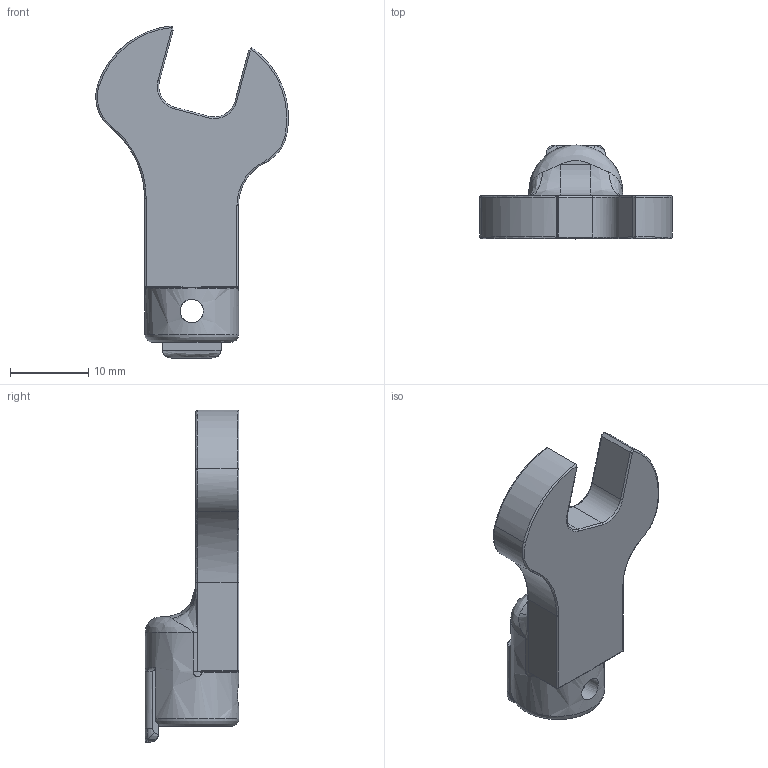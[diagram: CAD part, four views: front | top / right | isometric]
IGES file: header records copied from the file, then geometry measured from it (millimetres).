
Global section: file name: SH8DX10; native system: Autodesk Inventor 2016; preprocessor: unknown; author: Q600; date: 20151029.194313; units: millimetre
Bounding box: 24.6 x 12 x 42.43 mm (x, y, z)
Volume: 3160.4 mm3; surface area: 2212.2 mm2
Topology: 1 solids, 1 shells, 113 faces, 284 edges, 166 vertices
Faces by surface type: bspline 113
